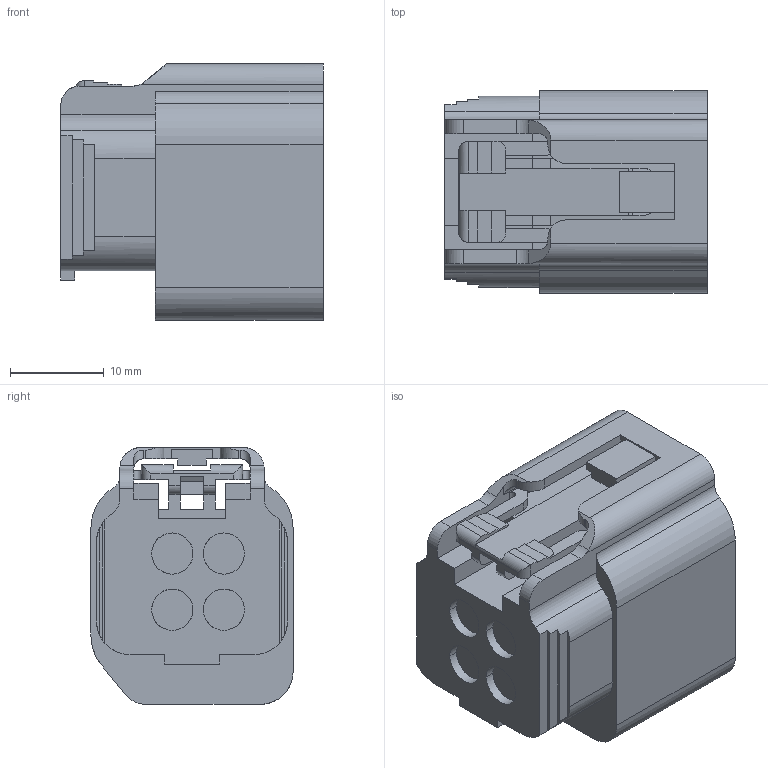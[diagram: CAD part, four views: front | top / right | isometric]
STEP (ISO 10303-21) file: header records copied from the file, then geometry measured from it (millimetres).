
FILE_DESCRIPTION(('CATIA V5 STEP Exchange','CAx-IF Rec.Pracs.--- Model Styling and Organization---1.2---2011-12-15'),'2;1');
FILE_NAME('\\fss01.ad.sws.co.jp\fs030008\技術管理部\個人\中田\SL干渉ﾁｪｯｸ\STEP\SL防水2.3機器\6189-0652.stp','2016-08-23T06:15:51+00:00',('none'),('none'),'CATIA Version 5-6 Release 2013 SP5 HF43','CATIA V5 STEP AP214','none');
FILE_SCHEMA(('AUTOMOTIVE_DESIGN { 1 0 10303 214 1 1 1 1 }'));
Length unit declared in the file: millimetre
Products named in the file (1): 6189-0652
Bounding box: 28 x 21.6 x 27.4 mm (x, y, z)
Volume: 8390.3 mm3; surface area: 6392.7 mm2
Topology: 1 solids, 1 shells, 205 faces, 593 edges, 395 vertices
Faces by surface type: plane 141, cylinder 64
Entity records: 6854 total; most frequent: CARTESIAN_POINT 1626, ORIENTED_EDGE 1186, DIRECTION 896, EDGE_CURVE 593, VECTOR 446, LINE 446, VERTEX_POINT 395, AXIS2_PLACEMENT_3D 280
